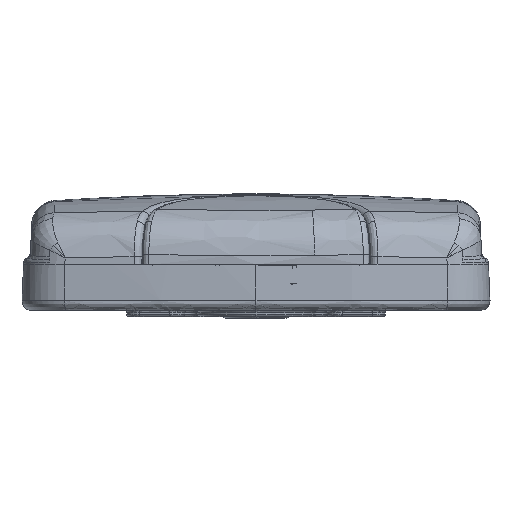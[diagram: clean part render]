
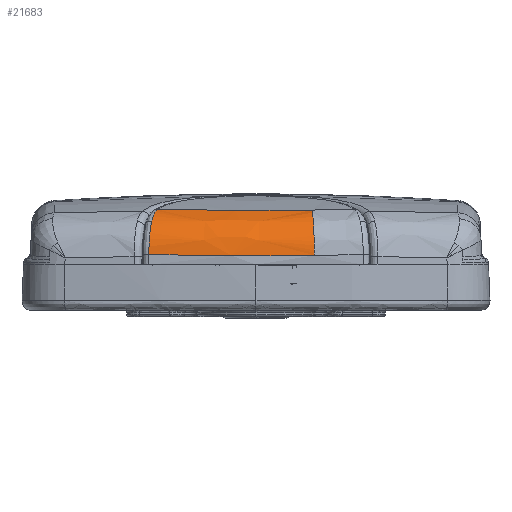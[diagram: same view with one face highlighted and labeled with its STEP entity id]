
A CAD part, left-side view. The second image highlights one B-rep face of the part: STEP entity #21683.
In plain terms, the highlighted free-form (B-spline) face has degree [3, 3] with [4, 7] control points.
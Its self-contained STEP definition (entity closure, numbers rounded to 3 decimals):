
#18906=CARTESIAN_POINT('Vertex',(-110.626,-11.949,9.135)) ;
#18910=CARTESIAN_POINT('Control Point',(-110.626,-11.949,9.135)) ;
#18911=CARTESIAN_POINT('Control Point',(-110.957,-5.141,9.062)) ;
#18912=CARTESIAN_POINT('Control Point',(-111.052,1.673,9.038)) ;
#18913=CARTESIAN_POINT('Control Point',(-110.918,8.387,9.07)) ;
#18914=CARTESIAN_POINT('Control Point',(-110.551,15.166,9.151)) ;
#18915=CARTESIAN_POINT('Control Point',(-109.955,21.905,9.277)) ;
#18916=CARTESIAN_POINT('Vertex',(-109.955,21.905,9.277)) ;
#20335=CARTESIAN_POINT('Vertex',(-106.836,21.29,16.14)) ;
#20339=CARTESIAN_POINT('Control Point',(-106.836,21.29,16.14)) ;
#20340=CARTESIAN_POINT('Control Point',(-106.209,21.155,16.733)) ;
#20341=CARTESIAN_POINT('Control Point',(-105.185,20.914,17.476)) ;
#20342=CARTESIAN_POINT('Control Point',(-103.654,20.481,18.189)) ;
#20343=CARTESIAN_POINT('Control Point',(-102.865,20.232,18.437)) ;
#20344=CARTESIAN_POINT('Control Point',(-102.465,20.099,18.535)) ;
#20345=CARTESIAN_POINT('Vertex',(-102.465,20.099,18.535)) ;
#20960=CARTESIAN_POINT('Control Point',(-102.465,20.099,18.535)) ;
#20961=CARTESIAN_POINT('Control Point',(-102.759,16.959,18.47)) ;
#20962=CARTESIAN_POINT('Control Point',(-102.996,13.813,18.416)) ;
#20963=CARTESIAN_POINT('Control Point',(-103.175,10.661,18.375)) ;
#20964=CARTESIAN_POINT('Control Point',(-103.392,5.008,18.324)) ;
#20965=CARTESIAN_POINT('Control Point',(-103.422,-0.658,18.318)) ;
#20966=CARTESIAN_POINT('Control Point',(-103.399,-3.163,18.323)) ;
#20967=CARTESIAN_POINT('Control Point',(-103.323,-6.33,18.341)) ;
#20968=CARTESIAN_POINT('Control Point',(-103.189,-9.5,18.373)) ;
#20969=CARTESIAN_POINT('Control Point',(-103.158,-10.157,18.38)) ;
#20970=CARTESIAN_POINT('Control Point',(-103.125,-10.818,18.388)) ;
#20971=CARTESIAN_POINT('Control Point',(-103.09,-11.478,18.396)) ;
#20972=CARTESIAN_POINT('Vertex',(-103.09,-11.478,18.396)) ;
#21087=CARTESIAN_POINT('Control Point',(-103.089,-11.478,18.396)) ;
#21088=CARTESIAN_POINT('Control Point',(-104.641,-11.558,18.007)) ;
#21089=CARTESIAN_POINT('Control Point',(-107.062,-11.691,16.72)) ;
#21090=CARTESIAN_POINT('Control Point',(-109.106,-11.818,14.206)) ;
#21091=CARTESIAN_POINT('Control Point',(-110.253,-11.901,11.789)) ;
#21092=CARTESIAN_POINT('Control Point',(-110.58,-11.935,10.201)) ;
#21093=CARTESIAN_POINT('Control Point',(-110.626,-11.949,9.135)) ;
#21634=CARTESIAN_POINT('Control Point',(-103.089,-11.478,18.396)) ;
#21635=CARTESIAN_POINT('Control Point',(-104.641,-11.558,18.007)) ;
#21636=CARTESIAN_POINT('Control Point',(-107.062,-11.691,16.72)) ;
#21637=CARTESIAN_POINT('Control Point',(-109.106,-11.818,14.206)) ;
#21638=CARTESIAN_POINT('Control Point',(-110.253,-11.901,11.789)) ;
#21639=CARTESIAN_POINT('Control Point',(-110.58,-11.935,10.201)) ;
#21640=CARTESIAN_POINT('Control Point',(-110.626,-11.949,9.135)) ;
#21641=CARTESIAN_POINT('Control Point',(-103.68,-0.54,18.257)) ;
#21642=CARTESIAN_POINT('Control Point',(-105.225,-0.544,17.86)) ;
#21643=CARTESIAN_POINT('Control Point',(-107.633,-0.551,16.568)) ;
#21644=CARTESIAN_POINT('Control Point',(-109.665,-0.558,14.059)) ;
#21645=CARTESIAN_POINT('Control Point',(-110.806,-0.563,11.652)) ;
#21646=CARTESIAN_POINT('Control Point',(-111.133,-0.565,10.072)) ;
#21647=CARTESIAN_POINT('Control Point',(-111.179,-0.566,9.011)) ;
#21648=CARTESIAN_POINT('Control Point',(-103.429,10.307,18.319)) ;
#21649=CARTESIAN_POINT('Control Point',(-104.976,10.377,17.926)) ;
#21650=CARTESIAN_POINT('Control Point',(-107.39,10.493,16.636)) ;
#21651=CARTESIAN_POINT('Control Point',(-109.428,10.605,14.124)) ;
#21652=CARTESIAN_POINT('Control Point',(-110.571,10.678,11.713)) ;
#21653=CARTESIAN_POINT('Control Point',(-110.898,10.708,10.129)) ;
#21654=CARTESIAN_POINT('Control Point',(-110.944,10.721,9.066)) ;
#21655=CARTESIAN_POINT('Control Point',(-102.372,21.065,18.556)) ;
#21656=CARTESIAN_POINT('Control Point',(-103.931,21.21,18.177)) ;
#21657=CARTESIAN_POINT('Control Point',(-106.369,21.451,16.898)) ;
#21658=CARTESIAN_POINT('Control Point',(-108.427,21.682,14.376)) ;
#21659=CARTESIAN_POINT('Control Point',(-109.581,21.831,11.947)) ;
#21660=CARTESIAN_POINT('Control Point',(-109.91,21.891,10.35)) ;
#21661=CARTESIAN_POINT('Control Point',(-109.954,21.916,9.277)) ;
#21663=CARTESIAN_POINT('Control Point',(-109.955,21.905,9.277)) ;
#21664=CARTESIAN_POINT('Control Point',(-109.922,21.898,10.05)) ;
#21665=CARTESIAN_POINT('Control Point',(-109.815,21.878,10.814)) ;
#21666=CARTESIAN_POINT('Control Point',(-109.639,21.845,11.56)) ;
#21667=CARTESIAN_POINT('Control Point',(-109.287,21.78,12.591)) ;
#21668=CARTESIAN_POINT('Control Point',(-108.808,21.689,13.551)) ;
#21669=CARTESIAN_POINT('Control Point',(-108.658,21.661,13.825)) ;
#21670=CARTESIAN_POINT('Control Point',(-108.26,21.584,14.489)) ;
#21671=CARTESIAN_POINT('Control Point',(-107.8,21.492,15.112)) ;
#21672=CARTESIAN_POINT('Control Point',(-107.499,21.43,15.475)) ;
#21673=CARTESIAN_POINT('Control Point',(-107.177,21.363,15.818)) ;
#21674=CARTESIAN_POINT('Control Point',(-106.836,21.29,16.14)) ;
#21677=ORIENTED_EDGE('',*,*,#21094,.F.) ;
#21678=ORIENTED_EDGE('',*,*,#20974,.F.) ;
#21679=ORIENTED_EDGE('',*,*,#20347,.F.) ;
#21680=ORIENTED_EDGE('',*,*,#21675,.F.) ;
#21681=ORIENTED_EDGE('',*,*,#18918,.F.) ;
#21683=ADVANCED_FACE('Cap2',(#21682),#21633,.T.) ;
#18909=B_SPLINE_CURVE_WITH_KNOTS('',5,(#18910,#18911,#18912,#18913,#18914,#18915),.UNSPECIFIED.,.F.,.U.,(6,6),(14.119,62.221),.UNSPECIFIED.) ;
#20338=B_SPLINE_CURVE_WITH_KNOTS('',3,(#20339,#20340,#20341,#20342,#20343,#20344),.UNSPECIFIED.,.F.,.U.,(4,1,1,4),(0.,2.517,3.776,5.034),.UNSPECIFIED.) ;
#20959=B_SPLINE_CURVE_WITH_KNOTS('',5,(#20960,#20961,#20962,#20963,#20964,#20965,#20966,#20967,#20968,#20969,#20970,#20971),.UNSPECIFIED.,.F.,.U.,(6,3,3,6),(0.,22.374,40.084,44.748),.UNSPECIFIED.) ;
#21086=B_SPLINE_CURVE_WITH_KNOTS('',3,(#21087,#21088,#21089,#21090,#21091,#21092,#21093),.UNSPECIFIED.,.F.,.U.,(4,1,1,1,4),(0.,4.812,8.02,9.624,12.832),.UNSPECIFIED.) ;
#21662=B_SPLINE_CURVE_WITH_KNOTS('',5,(#21663,#21664,#21665,#21666,#21667,#21668,#21669,#21670,#21671,#21672,#21673,#21674),.UNSPECIFIED.,.F.,.U.,(6,3,3,6),(0.,5.442,7.609,10.947),.UNSPECIFIED.) ;
#21633=B_SPLINE_SURFACE_WITH_KNOTS('',3,3,((#21634,#21635,#21636,#21637,#21638,#21639,#21640),(#21641,#21642,#21643,#21644,#21645,#21646,#21647),(#21648,#21649,#21650,#21651,#21652,#21653,#21654),(#21655,#21656,#21657,#21658,#21659,#21660,#21661)),.UNSPECIFIED.,.F.,.F.,.U.,(4,4),(4,1,1,1,4),(9.865,43.254),(0.,4.812,8.02,9.624,12.832),.UNSPECIFIED.) ;
#18918=EDGE_CURVE('',#18907,#18917,#18909,.T.) ;
#20347=EDGE_CURVE('',#20336,#20346,#20338,.T.) ;
#20974=EDGE_CURVE('',#20346,#20973,#20959,.T.) ;
#21094=EDGE_CURVE('',#20973,#18907,#21086,.T.) ;
#21675=EDGE_CURVE('',#18917,#20336,#21662,.T.) ;
#21676=EDGE_LOOP('',(#21677,#21678,#21679,#21680,#21681)) ;
#21682=FACE_OUTER_BOUND('',#21676,.T.) ;
#18907=VERTEX_POINT('',#18906) ;
#18917=VERTEX_POINT('',#18916) ;
#20336=VERTEX_POINT('',#20335) ;
#20346=VERTEX_POINT('',#20345) ;
#20973=VERTEX_POINT('',#20972) ;
